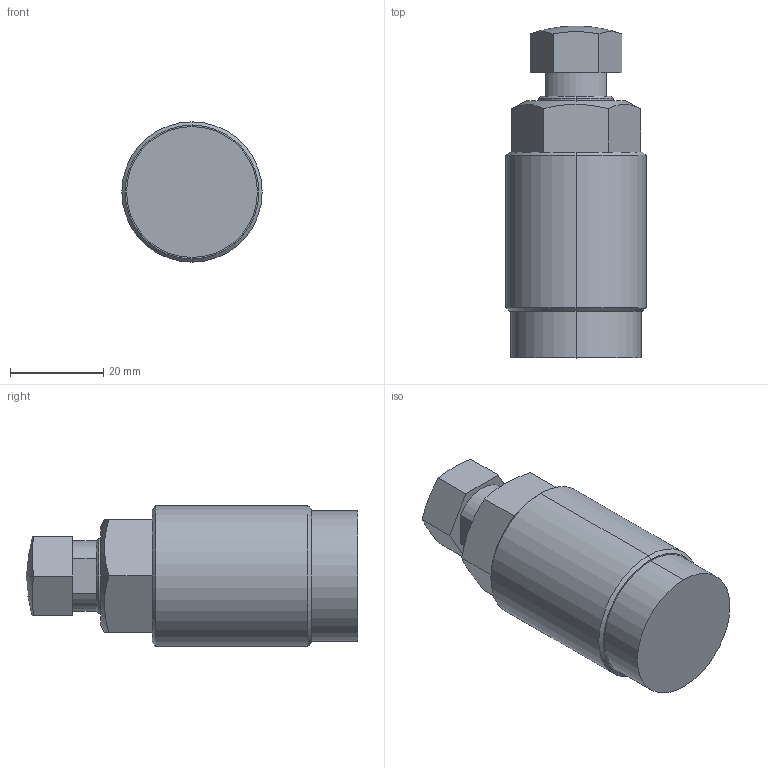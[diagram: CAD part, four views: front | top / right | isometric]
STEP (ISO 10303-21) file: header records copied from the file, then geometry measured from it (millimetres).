
FILE_DESCRIPTION (( 'STEP AP214' ), '1' );
FILE_NAME ('SP-16B1.STEP', '2021-10-19T00:31:30', ( '' ), ( '' ), 'SwSTEP 2.0', 'SolidWorks 2016', '' );
FILE_SCHEMA (( 'AUTOMOTIVE_DESIGN' ));
Length unit declared in the file: millimetre
Products named in the file (1): SP-16B1
Bounding box: 30 x 71 x 30 mm (x, y, z)
Volume: 38060.5 mm3; surface area: 7707.6 mm2
Topology: 1 solids, 2 shells, 45 faces, 100 edges, 61 vertices
Faces by surface type: plane 22, cylinder 11, cone 10, sphere 2
Entity records: 1355 total; most frequent: CARTESIAN_POINT 273, DIRECTION 221, ORIENTED_EDGE 196, EDGE_CURVE 98, AXIS2_PLACEMENT_3D 85, VERTEX_POINT 61, LINE 51, VECTOR 51
